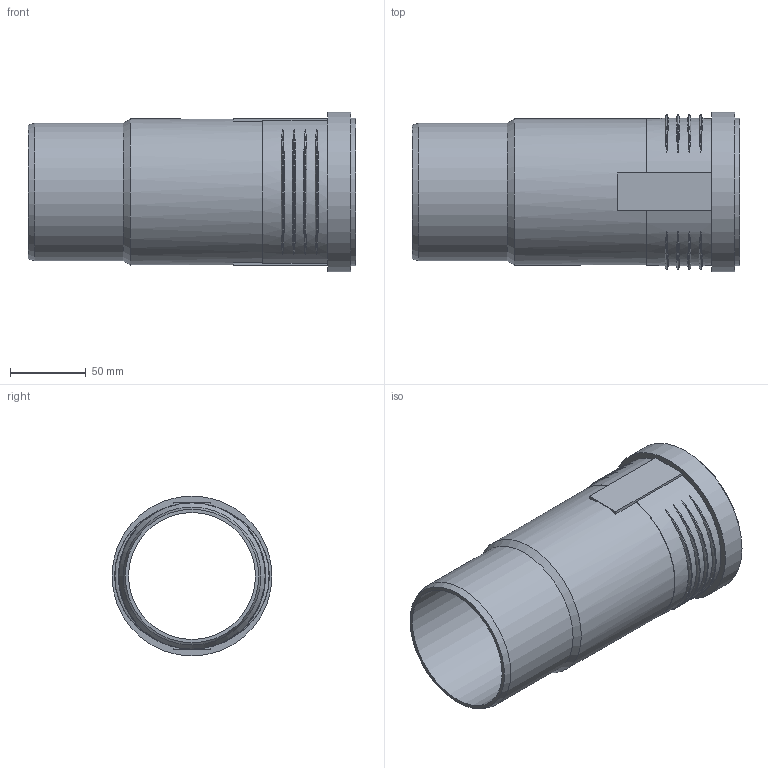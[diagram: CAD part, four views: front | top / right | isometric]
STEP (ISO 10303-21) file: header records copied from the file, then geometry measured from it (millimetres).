
FILE_DESCRIPTION(/* description */ (''),/* implementation_level */ '2;1');
FILE_NAME(/* name */ 'Z:\Geberit\Export\NewStep\390418.stp',/* time_stamp */ '2014-04-02T08:12:34+02:00',/* author */ ('ML'),/* organization */ (''),/* preprocessor_version */ 'ST-DEVELOPER v15.2',/* originating_system */ 'Autodesk Inventor 2014',/* authorisation */ '');
FILE_SCHEMA (('AUTOMOTIVE_DESIGN { 1 0 10303 214 3 1 1 }'));
Length unit declared in the file: millimetre
Products named in the file (1): 390418
Bounding box: 217 x 105.8 x 105.8 mm (x, y, z)
Volume: 205815.4 mm3; surface area: 136067.2 mm2
Topology: 1 solids, 1 shells, 53 faces, 128 edges, 89 vertices
Faces by surface type: torus 24, plane 16, cylinder 10, cone 3
Full cylindrical faces by diameter (mm): 84 x1, 91.2 x3, 96.8 x1, 97.4 x1, 100.2 x1, 105.8 x1
Entity records: 2240 total; most frequent: CARTESIAN_POINT 1010, ORIENTED_EDGE 232, DIRECTION 216, EDGE_CURVE 116, AXIS2_PLACEMENT_3D 94, VERTEX_POINT 88, EDGE_LOOP 78, STYLED_ITEM 54
